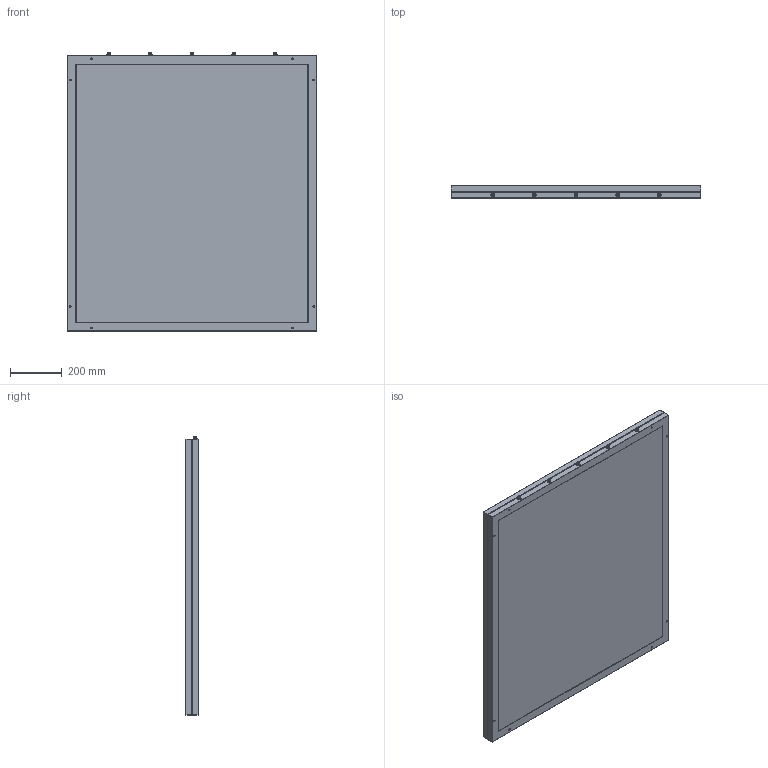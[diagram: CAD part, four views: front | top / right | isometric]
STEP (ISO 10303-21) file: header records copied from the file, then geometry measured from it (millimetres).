
FILE_DESCRIPTION (( 'STEP AP214' ), '1' );
FILE_NAME ('BL90100.STEP', '2015-03-30T12:04:57', ( '' ), ( '' ), 'SwSTEP 2.0', 'SolidWorks 2010', '' );
FILE_SCHEMA (( 'AUTOMOTIVE_DESIGN' ));
Length unit declared in the file: millimetre
Products named in the file (6): Diffusant 200x200; cadre support 270x270; Support 200x200; cadre 270x270; SW3DPS-FISCHER_DBP_103_Z053-130-DEFAULT_Default; BL90100
Assembly tree (9 placements, depth 2):
  BL90100
    cadre 270x270
    Diffusant 200x200
    Support 200x200
    SW3DPS-FISCHER_DBP_103_Z053-130-DEFAULT_Default  x5
    cadre support 270x270
Bounding box: 970 x 50 x 1080 mm (x, y, z)
Volume: 14061965.1 mm3; surface area: 4581872.1 mm2
Topology: 4 solids, 19 shells, 1639 faces, 4233 edges, 2713 vertices
Faces by surface type: cylinder 774, plane 307, cone 276, bspline 250, torus 16, sphere 16
Entity records: 20812 total; most frequent: CARTESIAN_POINT 8348, ORIENTED_EDGE 2188, DIRECTION 1907, EDGE_CURVE 1097, AXIS2_PLACEMENT_3D 754, VERTEX_POINT 697, EDGE_LOOP 516, ADVANCED_FACE 457
